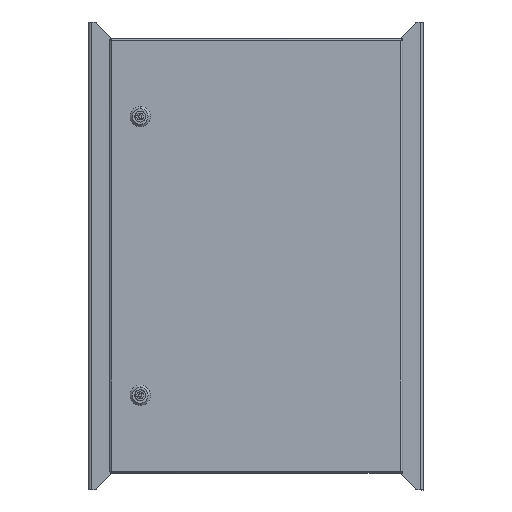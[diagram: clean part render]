
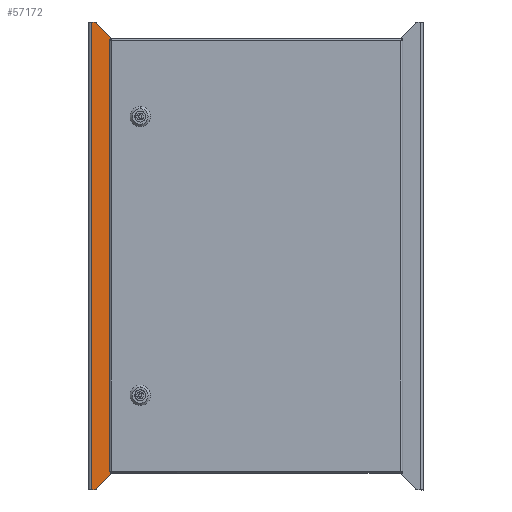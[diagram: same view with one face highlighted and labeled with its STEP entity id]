
A CAD part, top view. The second image highlights one B-rep face of the part: STEP entity #57172.
In plain terms, the highlighted planar face has unit normal (0, 0, 1).
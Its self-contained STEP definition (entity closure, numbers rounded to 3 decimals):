
#248 = LINE ( 'NONE', #86991, #26511 ) ;
#462 = CARTESIAN_POINT ( 'NONE',  ( -100.15, 345., -20.25 ) ) ;
#912 = DIRECTION ( 'NONE',  ( 1., 0., 0. ) ) ;
#1439 = CARTESIAN_POINT ( 'NONE',  ( -54.992, -315., -20.25 ) ) ;
#1454 = DIRECTION ( 'NONE',  ( 0., 0., 1. ) ) ;
#1602 = DIRECTION ( 'NONE',  ( 0., 0., 1. ) ) ;
#1818 = LINE ( 'NONE', #8456, #60048 ) ;
#2274 = CARTESIAN_POINT ( 'NONE',  ( -96.15, -345., -20.25 ) ) ;
#2672 = EDGE_CURVE ( 'NONE', #74505, #60179, #21603, .T. ) ;
#3420 = VECTOR ( 'NONE', #55223, 1000. ) ;
#3931 = DIRECTION ( 'NONE',  ( -1., 0., 0. ) ) ;
#4573 = VERTEX_POINT ( 'NONE', #21862 ) ;
#4682 = AXIS2_PLACEMENT_3D ( 'NONE', #17928, #25031, #41076 ) ;
#6927 = CARTESIAN_POINT ( 'NONE',  ( -58.63, 311.57, -20.25 ) ) ;
#7308 = ORIENTED_EDGE ( 'NONE', *, *, #39467, .T. ) ;
#8113 = ORIENTED_EDGE ( 'NONE', *, *, #84331, .T. ) ;
#8256 = CARTESIAN_POINT ( 'NONE',  ( -92.308, -340., -20.25 ) ) ;
#8456 = CARTESIAN_POINT ( 'NONE',  ( -57.15, -310., -20.25 ) ) ;
#9742 = VERTEX_POINT ( 'NONE', #37726 ) ;
#9847 = LINE ( 'NONE', #2274, #21182 ) ;
#11036 = DIRECTION ( 'NONE',  ( 0., 0., 1. ) ) ;
#11995 = CARTESIAN_POINT ( 'NONE',  ( -88.67, -343.43, -20.25 ) ) ;
#12174 = AXIS2_PLACEMENT_3D ( 'NONE', #8256, #1602, #80763 ) ;
#12212 = CIRCLE ( 'NONE', #4682, 5. ) ;
#13454 = EDGE_CURVE ( 'NONE', #74505, #53187, #12212, .T. ) ;
#14867 = VERTEX_POINT ( 'NONE', #64619 ) ;
#15001 = CARTESIAN_POINT ( 'NONE',  ( -70.65, 310., -20.25 ) ) ;
#16038 = EDGE_CURVE ( 'NONE', #4573, #60179, #248, .T. ) ;
#16992 = CARTESIAN_POINT ( 'NONE',  ( -51.15, 310., -20.25 ) ) ;
#17621 = EDGE_CURVE ( 'NONE', #14867, #47822, #88806, .T. ) ;
#17928 = CARTESIAN_POINT ( 'NONE',  ( -54.992, 315., -20.25 ) ) ;
#17996 = VECTOR ( 'NONE', #53086, 1000. ) ;
#20165 = CARTESIAN_POINT ( 'NONE',  ( -54.992, 310., -20.25 ) ) ;
#20497 = ORIENTED_EDGE ( 'NONE', *, *, #43789, .F. ) ;
#20851 = LINE ( 'NONE', #78777, #50987 ) ;
#21182 = VECTOR ( 'NONE', #88544, 1000. ) ;
#21603 = LINE ( 'NONE', #15001, #81586 ) ;
#21862 = CARTESIAN_POINT ( 'NONE',  ( -51.15, -310., -20.25 ) ) ;
#23141 = DIRECTION ( 'NONE',  ( -1., 0., 0. ) ) ;
#24246 = AXIS2_PLACEMENT_3D ( 'NONE', #38414, #11036, #3931 ) ;
#25031 = DIRECTION ( 'NONE',  ( 0., 0., -1. ) ) ;
#26272 = ORIENTED_EDGE ( 'NONE', *, *, #51158, .T. ) ;
#26511 = VECTOR ( 'NONE', #74592, 1000. ) ;
#26729 = EDGE_CURVE ( 'NONE', #89586, #29072, #44855, .T. ) ;
#28863 = DIRECTION ( 'NONE',  ( 0., 0., -1. ) ) ;
#29072 = VERTEX_POINT ( 'NONE', #89396 ) ;
#35042 = DIRECTION ( 'NONE',  ( 1., 0., 0. ) ) ;
#35829 = DIRECTION ( 'NONE',  ( 0.686, 0.728, 0. ) ) ;
#37726 = CARTESIAN_POINT ( 'NONE',  ( -96.15, -345., -20.25 ) ) ;
#38414 = CARTESIAN_POINT ( 'NONE',  ( -100.15, -345., -20.25 ) ) ;
#38864 = AXIS2_PLACEMENT_3D ( 'NONE', #88193, #1454, #89131 ) ;
#39467 = EDGE_CURVE ( 'NONE', #53321, #14867, #1818, .T. ) ;
#41076 = DIRECTION ( 'NONE',  ( -1., 0., 0. ) ) ;
#41132 = VERTEX_POINT ( 'NONE', #87750 ) ;
#41932 = CIRCLE ( 'NONE', #38864, 5. ) ;
#43789 = EDGE_CURVE ( 'NONE', #67139, #53187, #55680, .T. ) ;
#43900 = EDGE_LOOP ( 'NONE', ( #20497, #44129, #45013, #89275, #8113, #66643, #7308, #66795, #26272, #83815, #53999, #57327 ) ) ;
#44129 = ORIENTED_EDGE ( 'NONE', *, *, #54720, .T. ) ;
#44855 = LINE ( 'NONE', #462, #48489 ) ;
#45013 = ORIENTED_EDGE ( 'NONE', *, *, #26729, .F. ) ;
#47822 = VERTEX_POINT ( 'NONE', #64628 ) ;
#48489 = VECTOR ( 'NONE', #912, 1000. ) ;
#50987 = VECTOR ( 'NONE', #35042, 1000. ) ;
#51158 = EDGE_CURVE ( 'NONE', #47822, #4573, #83494, .T. ) ;
#51943 = EDGE_CURVE ( 'NONE', #9742, #89586, #9847, .T. ) ;
#53086 = DIRECTION ( 'NONE',  ( 1., 0., 0. ) ) ;
#53187 = VERTEX_POINT ( 'NONE', #6927 ) ;
#53321 = VERTEX_POINT ( 'NONE', #11995 ) ;
#53999 = ORIENTED_EDGE ( 'NONE', *, *, #2672, .F. ) ;
#54538 = CARTESIAN_POINT ( 'NONE',  ( -88.67, 343.43, -20.25 ) ) ;
#54720 = EDGE_CURVE ( 'NONE', #67139, #29072, #41932, .T. ) ;
#55223 = DIRECTION ( 'NONE',  ( 0.686, -0.728, 0. ) ) ;
#55680 = LINE ( 'NONE', #61396, #3420 ) ;
#57172 = ADVANCED_FACE ( 'NONE', ( #72226 ), #74070, .T. ) ;
#57327 = ORIENTED_EDGE ( 'NONE', *, *, #13454, .T. ) ;
#58150 = DIRECTION ( 'NONE',  ( 1., 0., 0. ) ) ;
#60048 = VECTOR ( 'NONE', #35829, 1000. ) ;
#60179 = VERTEX_POINT ( 'NONE', #16992 ) ;
#61396 = CARTESIAN_POINT ( 'NONE',  ( 249.547, -15.285, -20.25 ) ) ;
#62973 = AXIS2_PLACEMENT_3D ( 'NONE', #1439, #28863, #23141 ) ;
#64619 = CARTESIAN_POINT ( 'NONE',  ( -58.63, -311.57, -20.25 ) ) ;
#64628 = CARTESIAN_POINT ( 'NONE',  ( -54.992, -310., -20.25 ) ) ;
#66643 = ORIENTED_EDGE ( 'NONE', *, *, #74523, .T. ) ;
#66795 = ORIENTED_EDGE ( 'NONE', *, *, #17621, .T. ) ;
#67139 = VERTEX_POINT ( 'NONE', #54538 ) ;
#72226 = FACE_OUTER_BOUND ( 'NONE', #43900, .T. ) ;
#72728 = CIRCLE ( 'NONE', #12174, 5. ) ;
#72953 = CARTESIAN_POINT ( 'NONE',  ( -96.15, 345., -20.25 ) ) ;
#74070 = PLANE ( 'NONE',  #24246 ) ;
#74505 = VERTEX_POINT ( 'NONE', #20165 ) ;
#74523 = EDGE_CURVE ( 'NONE', #41132, #53321, #72728, .T. ) ;
#74592 = DIRECTION ( 'NONE',  ( 0., 1., 0. ) ) ;
#78777 = CARTESIAN_POINT ( 'NONE',  ( -100.15, -345., -20.25 ) ) ;
#80763 = DIRECTION ( 'NONE',  ( -1., 0., 0. ) ) ;
#81586 = VECTOR ( 'NONE', #58150, 1000. ) ;
#83025 = CARTESIAN_POINT ( 'NONE',  ( -47.15, -310., -20.25 ) ) ;
#83494 = LINE ( 'NONE', #83025, #17996 ) ;
#83815 = ORIENTED_EDGE ( 'NONE', *, *, #16038, .T. ) ;
#84331 = EDGE_CURVE ( 'NONE', #9742, #41132, #20851, .T. ) ;
#86991 = CARTESIAN_POINT ( 'NONE',  ( -51.15, -345., -20.25 ) ) ;
#87750 = CARTESIAN_POINT ( 'NONE',  ( -92.308, -345., -20.25 ) ) ;
#88193 = CARTESIAN_POINT ( 'NONE',  ( -92.308, 340., -20.25 ) ) ;
#88544 = DIRECTION ( 'NONE',  ( 0., 1., 0. ) ) ;
#88806 = CIRCLE ( 'NONE', #62973, 5. ) ;
#89131 = DIRECTION ( 'NONE',  ( -1., 0., 0. ) ) ;
#89275 = ORIENTED_EDGE ( 'NONE', *, *, #51943, .F. ) ;
#89396 = CARTESIAN_POINT ( 'NONE',  ( -92.308, 345., -20.25 ) ) ;
#89586 = VERTEX_POINT ( 'NONE', #72953 ) ;
